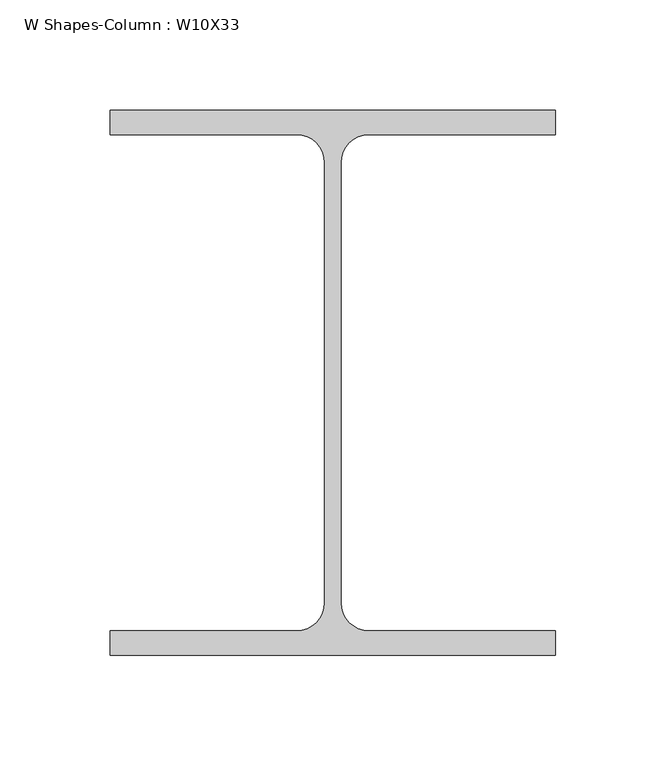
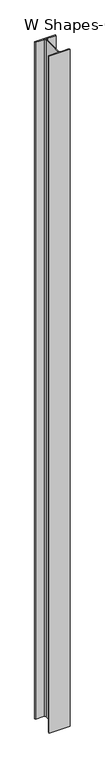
"""IFC4 building model written with IfcOpenShell, lengths in millimetres: column geometry, W Shapes-Column : W10X33."""

from ifc_helpers import new_model, si_unit, point, frame, frame_2d, origin, place, context, project, spatial, polyline, circle_curve, trimmed, segment, composite_curve, outline, extrude, source, transform, mapped, element, save


def w_shapes_column_w10x33_27927fa3(model_context):
    return source(origin(), model_context, "Body", "SweptSolid", [
        extrude(outline(composite_curve([segment(polyline([(101.092, 123.571), (101.092, 112.522), (16.383, 112.522)]), True, "CONTINUOUS"), segment(trimmed(circle_curve(frame_2d((16.383, 99.822)), 12.7), [point((16.383, 112.522))], [point((3.683, 99.822))], True, "CARTESIAN"), True, "CONTINUOUS"), segment(polyline([(3.683, 99.822), (3.683, -99.822)]), True, "CONTINUOUS"), segment(trimmed(circle_curve(frame_2d((16.383, -99.822)), 12.7), [point((3.683, -99.822))], [point((16.383, -112.522))], True, "CARTESIAN"), True, "CONTINUOUS"), segment(polyline([(16.383, -112.522), (101.092, -112.522), (101.092, -123.571), (-101.092, -123.571), (-101.092, -112.522), (-16.383, -112.522)]), True, "CONTINUOUS"), segment(trimmed(circle_curve(frame_2d((-16.383, -99.822)), 12.7), [point((-16.383, -112.522))], [point((-3.683, -99.822))], True, "CARTESIAN"), True, "CONTINUOUS"), segment(polyline([(-3.683, -99.822), (-3.683, 99.822)]), True, "CONTINUOUS"), segment(trimmed(circle_curve(frame_2d((-16.383, 99.822)), 12.7), [point((-3.683, 99.822))], [point((-16.383, 112.522))], True, "CARTESIAN"), True, "CONTINUOUS"), segment(polyline([(-16.383, 112.522), (-101.092, 112.522), (-101.092, 123.571), (101.092, 123.571)]), True, "CONTINUOUS")], self_intersect=False)), frame((0.0, 0.0, -304.8), z_axis=(0.0, 0.0, 1.0), x_axis=(1.0, 0.0, 0.0)), (0.0, 0.0, 1.0), 7010.4),
    ])


if __name__ == "__main__":
    model = new_model("IFC4")
    model_context = context("Model", 3, world=origin())
    ifc_project = project(units=[si_unit("LENGTHUNIT", "METRE", prefix="MILLI")], contexts=[model_context])
    site = spatial("IfcSite", under=ifc_project)
    building = spatial("IfcBuilding", under=site)
    placement = place(None, origin())
    w_shapes_column_w10x33_shape = w_shapes_column_w10x33_27927fa3(model_context)
    element("IfcColumn", 1, ObjectType="W Shapes-Column : W10X33", at=placement, inside=building, context=model_context, shape_type="MappedRepresentation", body=[
        mapped(w_shapes_column_w10x33_shape, transform((0.0, 0.0, 0.0), x_axis=(1.0, 0.0, 0.0), y_axis=(0.0, 1.0, 0.0), z_axis=(0.0, 0.0, 1.0))),
    ])
    save(model, "model.ifc")
